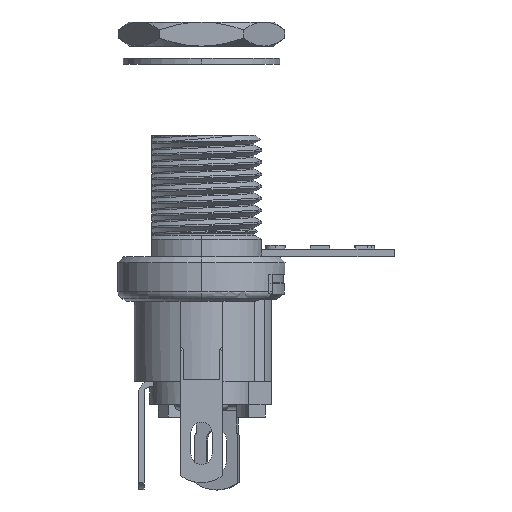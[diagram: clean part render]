
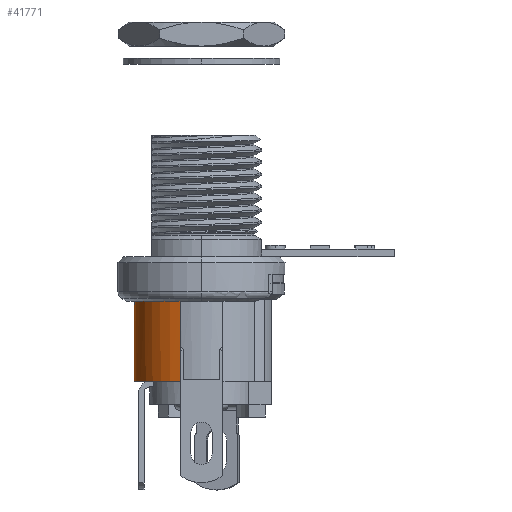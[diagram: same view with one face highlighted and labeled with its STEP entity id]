
A CAD part, left-side view. The second image highlights one B-rep face of the part: STEP entity #41771.
In plain terms, the highlighted cylindrical face has radius 4.445 mm (diameter 8.89 mm), a partial arc.
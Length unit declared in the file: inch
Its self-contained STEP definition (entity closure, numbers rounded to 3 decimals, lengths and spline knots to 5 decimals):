
#22108 = CARTESIAN_POINT ( 'NONE',  ( -0.16597, 0.0555, -0.323 ) ) ;
#22154 = CARTESIAN_POINT ( 'NONE',  ( 0.13406, 0.11249, -0.323 ) ) ;
#22155 = DIRECTION ( 'NONE',  ( 0., -1., 0. ) ) ;
#22156 = DIRECTION ( 'NONE',  ( 0., 0., -1. ) ) ;
#22157 = AXIS2_PLACEMENT_3D ( 'NONE', #22164, #22156, #22155 ) ;
#22158 = CIRCLE ( 'NONE', #22157, 0.175 ) ;
#22164 = CARTESIAN_POINT ( 'NONE',  ( 0., 0., -0.323 ) ) ;
#35972 = VERTEX_POINT ( 'NONE', #22108 ) ;
#35986 = EDGE_CURVE ( 'NONE', #35972, #35991, #22158, .T. ) ;
#35991 = VERTEX_POINT ( 'NONE', #22154 ) ;
#38386 = EDGE_LOOP ( 'NONE', ( #41840, #41847, #41849, #41851, #41857, #41867, #41875, #41934, #41939, #41941, #41945, #41948, #41950 ) ) ;
#40283 = VERTEX_POINT ( 'NONE', #45149 ) ;
#40287 = EDGE_CURVE ( 'NONE', #40289, #40283, #45144, .T. ) ;
#40289 = VERTEX_POINT ( 'NONE', #45136 ) ;
#41294 = VERTEX_POINT ( 'NONE', #47593 ) ;
#41305 = EDGE_CURVE ( 'NONE', #41352, #41294, #47577, .T. ) ;
#41349 = EDGE_CURVE ( 'NONE', #41352, #35991, #47725, .T. ) ;
#41352 = VERTEX_POINT ( 'NONE', #47719 ) ;
#41360 = VERTEX_POINT ( 'NONE', #47840 ) ;
#41379 = EDGE_CURVE ( 'NONE', #41294, #41382, #47821, .T. ) ;
#41382 = VERTEX_POINT ( 'NONE', #47806 ) ;
#41456 = EDGE_CURVE ( 'NONE', #41360, #41457, #48018, .T. ) ;
#41457 = VERTEX_POINT ( 'NONE', #48010 ) ;
#41481 = EDGE_CURVE ( 'NONE', #41483, #41382, #48095, .T. ) ;
#41483 = VERTEX_POINT ( 'NONE', #48088 ) ;
#41506 = EDGE_CURVE ( 'NONE', #41360, #41483, #48150, .T. ) ;
#41517 = EDGE_CURVE ( 'NONE', #41519, #41520, #48257, .T. ) ;
#41519 = VERTEX_POINT ( 'NONE', #48249 ) ;
#41520 = VERTEX_POINT ( 'NONE', #48246 ) ;
#41767 = EDGE_CURVE ( 'NONE', #40283, #41519, #49079, .T. ) ;
#41771 = ADVANCED_FACE ( 'NONE', ( #49073 ), #49065, .T. ) ;
#41840 = ORIENTED_EDGE ( 'NONE', *, *, #41842, .F. ) ;
#41842 = EDGE_CURVE ( 'NONE', #40289, #35972, #49397, .T. ) ;
#41847 = ORIENTED_EDGE ( 'NONE', *, *, #40287, .T. ) ;
#41849 = ORIENTED_EDGE ( 'NONE', *, *, #41767, .T. ) ;
#41851 = ORIENTED_EDGE ( 'NONE', *, *, #41517, .T. ) ;
#41857 = ORIENTED_EDGE ( 'NONE', *, *, #41862, .T. ) ;
#41862 = EDGE_CURVE ( 'NONE', #41520, #41863, #49520, .T. ) ;
#41863 = VERTEX_POINT ( 'NONE', #49506 ) ;
#41867 = ORIENTED_EDGE ( 'NONE', *, *, #41869, .T. ) ;
#41869 = EDGE_CURVE ( 'NONE', #41863, #41457, #49500, .T. ) ;
#41875 = ORIENTED_EDGE ( 'NONE', *, *, #41456, .F. ) ;
#41934 = ORIENTED_EDGE ( 'NONE', *, *, #41506, .T. ) ;
#41939 = ORIENTED_EDGE ( 'NONE', *, *, #41481, .T. ) ;
#41941 = ORIENTED_EDGE ( 'NONE', *, *, #41379, .F. ) ;
#41945 = ORIENTED_EDGE ( 'NONE', *, *, #41305, .F. ) ;
#41948 = ORIENTED_EDGE ( 'NONE', *, *, #41349, .T. ) ;
#41950 = ORIENTED_EDGE ( 'NONE', *, *, #35986, .F. ) ;
#45136 = CARTESIAN_POINT ( 'NONE',  ( -0.16597, 0.0555, -0.10974 ) ) ;
#45138 = DIRECTION ( 'NONE',  ( 1., 0., 0. ) ) ;
#45139 = DIRECTION ( 'NONE',  ( 0., 0., -1. ) ) ;
#45140 = CARTESIAN_POINT ( 'NONE',  ( 0., 0., -0.10974 ) ) ;
#45142 = AXIS2_PLACEMENT_3D ( 'NONE', #45140, #45139, #45138 ) ;
#45144 = CIRCLE ( 'NONE', #45142, 0.175 ) ;
#45149 = CARTESIAN_POINT ( 'NONE',  ( 0.10889, -0.137, -0.10974 ) ) ;
#47570 = DIRECTION ( 'NONE',  ( 0., -1., 0. ) ) ;
#47572 = DIRECTION ( 'NONE',  ( 0., 0., -1. ) ) ;
#47574 = CARTESIAN_POINT ( 'NONE',  ( 0., 0., -0.416 ) ) ;
#47575 = AXIS2_PLACEMENT_3D ( 'NONE', #47574, #47572, #47570 ) ;
#47577 = CIRCLE ( 'NONE', #47575, 0.175 ) ;
#47593 = CARTESIAN_POINT ( 'NONE',  ( 0.17407, 0.01806, -0.416 ) ) ;
#47719 = CARTESIAN_POINT ( 'NONE',  ( 0.13406, 0.11249, -0.416 ) ) ;
#47721 = DIRECTION ( 'NONE',  ( 0., 0., 1. ) ) ;
#47722 = VECTOR ( 'NONE', #47721, 39.37008 ) ;
#47723 = CARTESIAN_POINT ( 'NONE',  ( 0.13406, 0.11249, -0.416 ) ) ;
#47725 = LINE ( 'NONE', #47723, #47722 ) ;
#47806 = CARTESIAN_POINT ( 'NONE',  ( 0.17407, 0.01806, -0.323 ) ) ;
#47809 = DIRECTION ( 'NONE',  ( 0., 0., 1. ) ) ;
#47810 = VECTOR ( 'NONE', #47809, 39.37008 ) ;
#47813 = CARTESIAN_POINT ( 'NONE',  ( 0.17407, 0.01806, -0.4526 ) ) ;
#47821 = LINE ( 'NONE', #47813, #47810 ) ;
#47840 = CARTESIAN_POINT ( 'NONE',  ( 0.14171, -0.10268, -0.416 ) ) ;
#48010 = CARTESIAN_POINT ( 'NONE',  ( 0.0575, -0.16528, -0.416 ) ) ;
#48012 = DIRECTION ( 'NONE',  ( 0., -1., 0. ) ) ;
#48014 = DIRECTION ( 'NONE',  ( 0., 0., -1. ) ) ;
#48016 = AXIS2_PLACEMENT_3D ( 'NONE', #48027, #48014, #48012 ) ;
#48018 = CIRCLE ( 'NONE', #48016, 0.175 ) ;
#48027 = CARTESIAN_POINT ( 'NONE',  ( 0., 0., -0.416 ) ) ;
#48088 = CARTESIAN_POINT ( 'NONE',  ( 0.14171, -0.10268, -0.323 ) ) ;
#48090 = DIRECTION ( 'NONE',  ( 0., 1., 0. ) ) ;
#48092 = DIRECTION ( 'NONE',  ( 0., 0., 1. ) ) ;
#48094 = AXIS2_PLACEMENT_3D ( 'NONE', #48112, #48092, #48090 ) ;
#48095 = CIRCLE ( 'NONE', #48094, 0.175 ) ;
#48112 = CARTESIAN_POINT ( 'NONE',  ( 0., 0., -0.323 ) ) ;
#48146 = DIRECTION ( 'NONE',  ( 0., 0., 1. ) ) ;
#48147 = VECTOR ( 'NONE', #48146, 39.37008 ) ;
#48148 = CARTESIAN_POINT ( 'NONE',  ( 0.14171, -0.10268, -0.4526 ) ) ;
#48150 = LINE ( 'NONE', #48148, #48147 ) ;
#48246 = CARTESIAN_POINT ( 'NONE',  ( 0.0575, -0.16528, -0.323 ) ) ;
#48249 = CARTESIAN_POINT ( 'NONE',  ( 0.10889, -0.137, -0.323 ) ) ;
#48251 = DIRECTION ( 'NONE',  ( 0., 1., 0. ) ) ;
#48253 = DIRECTION ( 'NONE',  ( 0., 0., -1. ) ) ;
#48255 = AXIS2_PLACEMENT_3D ( 'NONE', #48266, #48253, #48251 ) ;
#48257 = CIRCLE ( 'NONE', #48255, 0.175 ) ;
#48266 = CARTESIAN_POINT ( 'NONE',  ( 0., 0., -0.323 ) ) ;
#49063 = AXIS2_PLACEMENT_3D ( 'NONE', #49193, #49191, #49189 ) ;
#49065 = CYLINDRICAL_SURFACE ( 'NONE', #49063, 0.175 ) ;
#49073 = FACE_OUTER_BOUND ( 'NONE', #38386, .T. ) ;
#49075 = DIRECTION ( 'NONE',  ( 0., 0., -1. ) ) ;
#49076 = VECTOR ( 'NONE', #49075, 39.37008 ) ;
#49078 = CARTESIAN_POINT ( 'NONE',  ( 0.10889, -0.137, -0.02929 ) ) ;
#49079 = LINE ( 'NONE', #49078, #49076 ) ;
#49189 = DIRECTION ( 'NONE',  ( 0., -1., 0. ) ) ;
#49191 = DIRECTION ( 'NONE',  ( 0., 0., -1. ) ) ;
#49193 = CARTESIAN_POINT ( 'NONE',  ( 0., 0., -0.3797 ) ) ;
#49396 = CARTESIAN_POINT ( 'NONE',  ( -0.16597, 0.0555, -0.0186 ) ) ;
#49397 = LINE ( 'NONE', #49396, #49532 ) ;
#49495 = DIRECTION ( 'NONE',  ( 0., 0., -1. ) ) ;
#49497 = VECTOR ( 'NONE', #49495, 39.37008 ) ;
#49498 = CARTESIAN_POINT ( 'NONE',  ( 0.0575, -0.16528, -0.3797 ) ) ;
#49500 = LINE ( 'NONE', #49498, #49497 ) ;
#49506 = CARTESIAN_POINT ( 'NONE',  ( 0.0575, -0.16528, -0.3832 ) ) ;
#49508 = DIRECTION ( 'NONE',  ( 0., 0., -1. ) ) ;
#49510 = VECTOR ( 'NONE', #49508, 39.37008 ) ;
#49512 = CARTESIAN_POINT ( 'NONE',  ( 0.0575, -0.16528, -0.3797 ) ) ;
#49520 = LINE ( 'NONE', #49512, #49510 ) ;
#49531 = DIRECTION ( 'NONE',  ( 0., 0., -1. ) ) ;
#49532 = VECTOR ( 'NONE', #49531, 39.37008 ) ;
